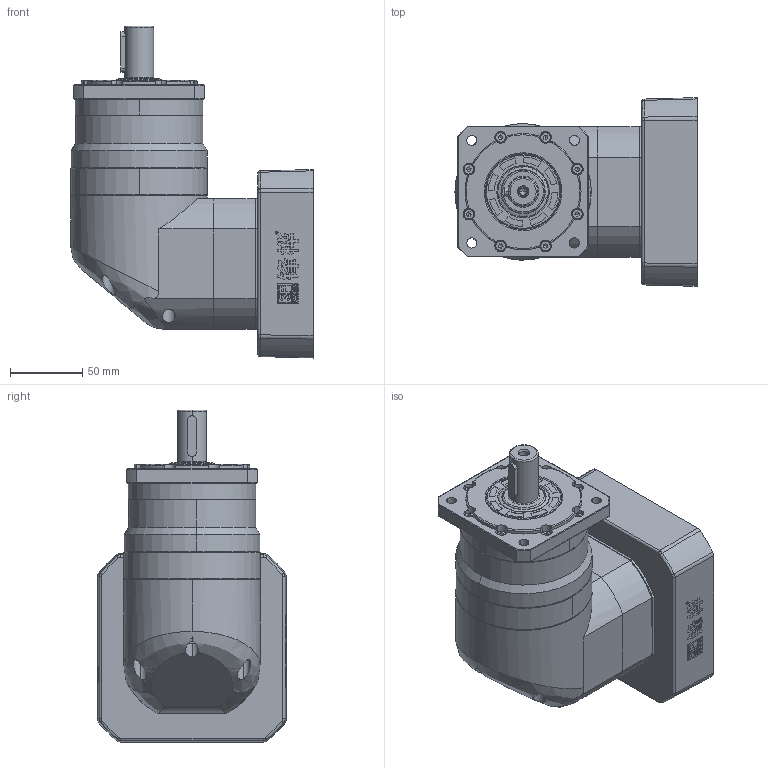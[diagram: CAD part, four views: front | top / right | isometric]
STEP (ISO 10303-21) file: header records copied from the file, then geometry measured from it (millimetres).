
FILE_DESCRIPTION (( 'STEP AP214' ), '1' );
FILE_NAME ('FBR090-L1-S2-P2 22-110-145-M8.STEP', '2021-04-23T07:20:07', ( 'Microsoft' ), ( 'Microsoft China' ), 'SwSTEP 2.0', 'SolidWorks 2016', '' );
FILE_SCHEMA (( 'AUTOMOTIVE_DESIGN' ));
Length unit declared in the file: millimetre
Products named in the file (15): 输入轴FBR090-5M1-22; FBR090-L1-S2-P2 22-110-145-M8; M5-12; M6-14; M4-10樓粟菜; A倰す瑩 6-28; 蚐猾30526; 怀堤傷褲极FBR090D; 怀堤俴陎殤FBR090-20粣; 内齿圈FBR080; 怀堤傷褲极FBR080; 珨撰眻褒眊极FBR090D+菜え; 输入端壳体FBR090M1; 输入法兰FBR090M1-110-145-M8; 输入轴锁紧环 26-52-14
Assembly tree (31 placements, depth 2):
  FBR090-L1-S2-P2 22-110-145-M8
    输入轴FBR090-5M1-22
    输入轴锁紧环 26-52-14
    输入法兰FBR090M1-110-145-M8
    输入端壳体FBR090M1
    珨撰眻褒眊极FBR090D+菜え
    怀堤傷褲极FBR080
    内齿圈FBR080
    怀堤俴陎殤FBR090-20粣
    怀堤傷褲极FBR090D
    蚐猾30526
    A倰す瑩 6-28
    M4-10樓粟菜  x8
    M6-14  x7
    M5-12  x5
Bounding box: 167 x 130 x 229 mm (x, y, z)
Volume: 1113934.6 mm3; surface area: 270388.8 mm2
Topology: 22 solids, 40 shells, 1901 faces, 4762 edges, 2973 vertices
Faces by surface type: plane 640, bspline 519, cylinder 418, cone 257, torus 67
Entity records: 79517 total; most frequent: CARTESIAN_POINT 31173, ORIENTED_EDGE 7399, DIRECTION 5580, EDGE_CURVE 3732, VERTEX_POINT 2364, AXIS2_PLACEMENT_3D 2025, EDGE_LOOP 1620, LINE 1530
